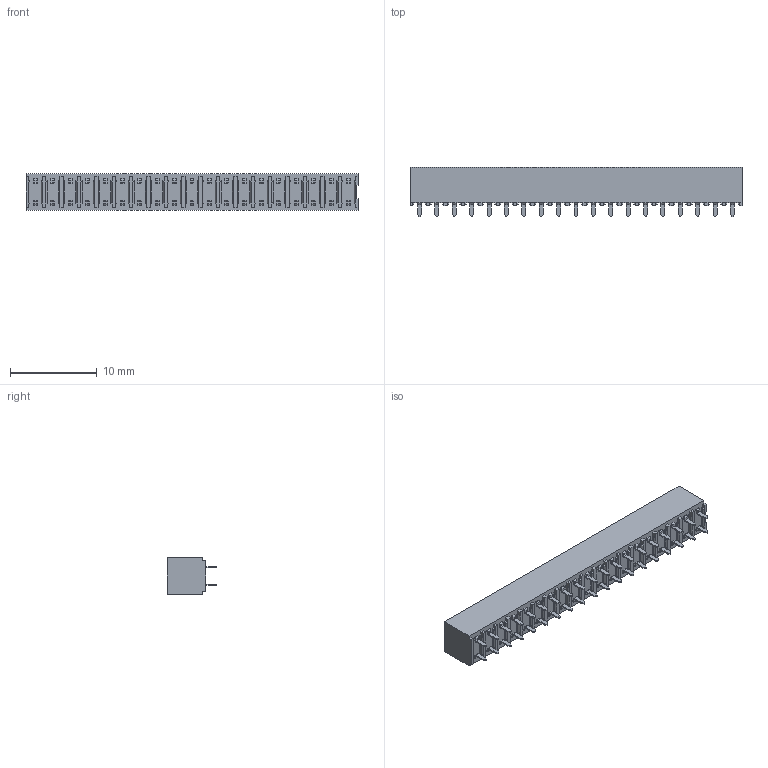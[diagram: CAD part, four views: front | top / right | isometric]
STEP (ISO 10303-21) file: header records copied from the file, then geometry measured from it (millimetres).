
FILE_DESCRIPTION((''),'2;1');
FILE_NAME('791081018','2017-06-15T',('ksrinivasara'),(''),'PRO/ENGINEER BY PARAMETRIC TECHNOLOGY CORPORATION, 2012310','PRO/ENGINEER BY PARAMETRIC TECHNOLOGY CORPORATION, 2012310','');
FILE_SCHEMA(('CONFIG_CONTROL_DESIGN'));
Length unit declared in the file: millimetre
Products named in the file (1): 791081018
Bounding box: 38.19 x 5.71 x 4.19 mm (x, y, z)
Volume: 657.6 mm3; surface area: 841.6 mm2
Topology: 1 solids, 1 shells, 1286 faces, 3342 edges, 2152 vertices
Faces by surface type: plane 1134, cylinder 152
Entity records: 38419 total; most frequent: CARTESIAN_POINT 6705, ORIENTED_EDGE 6532, DIRECTION 6296, EDGE_CURVE 3266, VECTOR 2962, LINE 2962, VERTEX_POINT 2076, AXIS2_PLACEMENT_3D 1667
